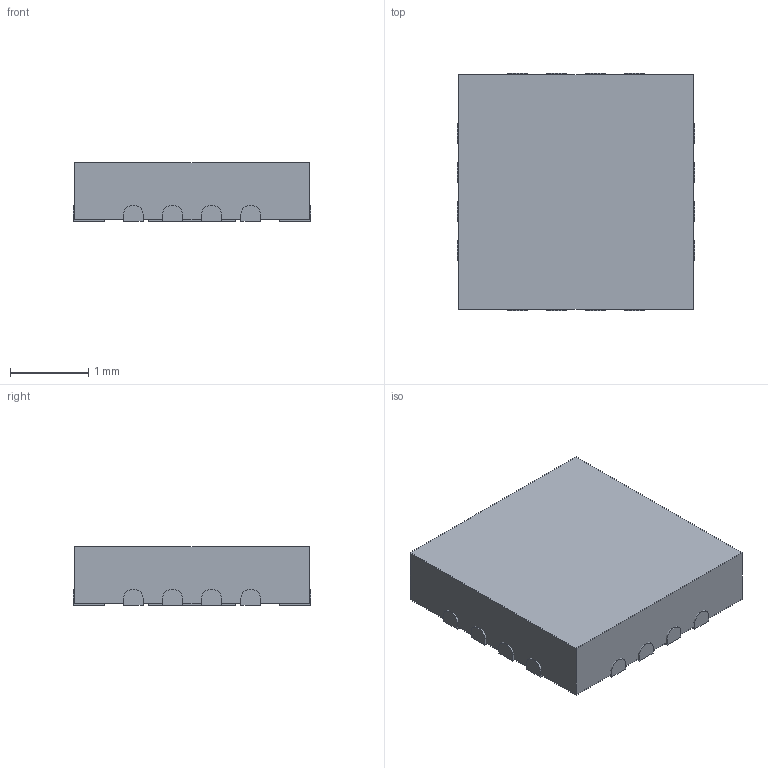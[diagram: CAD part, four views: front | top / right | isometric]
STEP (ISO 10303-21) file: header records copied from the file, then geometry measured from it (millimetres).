
FILE_DESCRIPTION(('FreeCAD Model'),'2;1');
FILE_NAME('Open CASCADE Shape Model','2025-01-31T19:49:31',( 'Krisjanis Rijnieks'),(''),'Open CASCADE STEP processor 7.7', 'FreeCAD','Unknown');
FILE_SCHEMA(('AUTOMOTIVE_DESIGN { 1 0 10303 214 1 1 1 1 }'));
Length unit declared in the file: millimetre
Products named in the file (19): MAX98357AETE_TQFN; TQFN_Base; TQFN_Lead; Body013; Body014; Body015; Body016; Body017; Body018; Body019; Body020; Body021; Body022; Body023; Body024; Body025; Body026; Body027; TQFN_Pad
Assembly tree (18 placements, depth 2):
  MAX98357AETE_TQFN
    TQFN_Base
    TQFN_Lead
    Body013
    Body014
    Body015
    Body016
    Body017
    Body018
    Body019
    Body020
    Body021
    Body022
    Body023
    Body024
    Body025
    Body026
    Body027
    TQFN_Pad
Bounding box: 3.04 x 3.04 x 0.75 mm (x, y, z)
Volume: 6.9 mm3; surface area: 35.8 mm2
Topology: 18 solids, 18 shells, 141 faces, 315 edges, 210 vertices
Faces by surface type: plane 109, cylinder 32
Entity records: 4376 total; most frequent: DIRECTION 699, CARTESIAN_POINT 685, ORIENTED_EDGE 630, EDGE_CURVE 315, LINE 251, VECTOR 251, AXIS2_PLACEMENT_3D 224, VERTEX_POINT 210
